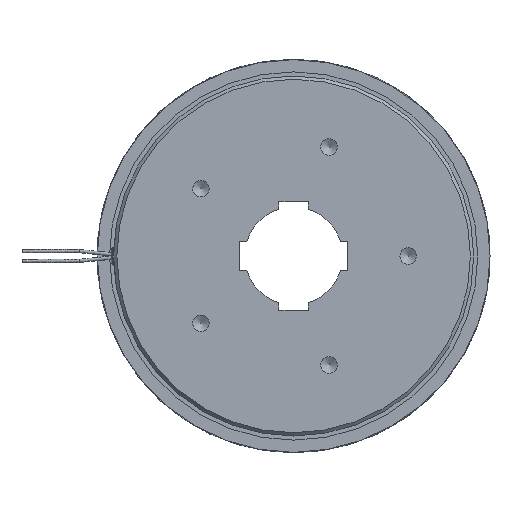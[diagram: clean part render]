
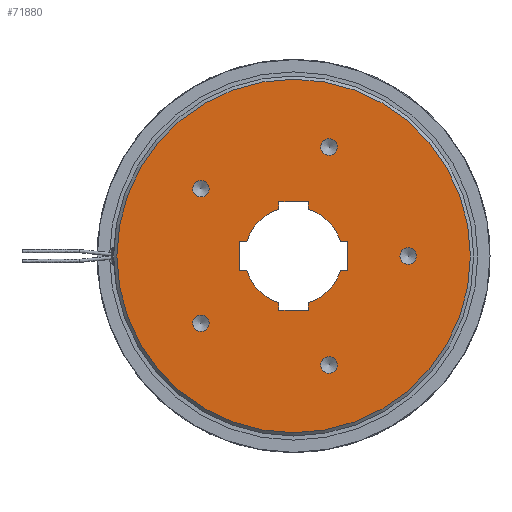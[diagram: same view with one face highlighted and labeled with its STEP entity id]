
A CAD part, left-side view. The second image highlights one B-rep face of the part: STEP entity #71880.
In plain terms, the highlighted planar face has unit normal (-1, 0, 0).
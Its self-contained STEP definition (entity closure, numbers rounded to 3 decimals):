
#196=FACE_BOUND('',#7760,.T.);
#197=FACE_BOUND('',#7761,.T.);
#198=FACE_BOUND('',#7762,.T.);
#199=FACE_BOUND('',#7763,.T.);
#200=FACE_BOUND('',#7764,.T.);
#201=FACE_BOUND('',#7765,.T.);
#737=PLANE('',#81061);
#4030=FACE_OUTER_BOUND('',#7759,.T.);
#7759=EDGE_LOOP('',(#59207));
#7760=EDGE_LOOP('',(#59208,#59209,#59210,#59211,#59212,#59213,#59214,#59215,
#59216,#59217,#59218,#59219,#59220,#59221,#59222,#59223));
#7761=EDGE_LOOP('',(#59224));
#7762=EDGE_LOOP('',(#59225));
#7763=EDGE_LOOP('',(#59226));
#7764=EDGE_LOOP('',(#59227));
#7765=EDGE_LOOP('',(#59228));
#11861=LINE('',#125065,#16191);
#11865=LINE('',#125073,#16195);
#11869=LINE('',#125080,#16199);
#11871=LINE('',#125086,#16201);
#11875=LINE('',#125094,#16205);
#11879=LINE('',#125101,#16209);
#11881=LINE('',#125107,#16211);
#11885=LINE('',#125115,#16215);
#11889=LINE('',#125122,#16219);
#11896=LINE('',#125150,#16226);
#11897=LINE('',#125153,#16227);
#11899=LINE('',#125156,#16229);
#16191=VECTOR('',#102916,10.);
#16195=VECTOR('',#102922,10.);
#16199=VECTOR('',#102928,10.);
#16201=VECTOR('',#102932,10.);
#16205=VECTOR('',#102938,10.);
#16209=VECTOR('',#102944,10.);
#16211=VECTOR('',#102948,10.);
#16215=VECTOR('',#102954,10.);
#16219=VECTOR('',#102960,10.);
#16226=VECTOR('',#102993,10.);
#16227=VECTOR('',#102996,10.);
#16229=VECTOR('',#103000,10.);
#22552=CIRCLE('',#81051,30.);
#22553=CIRCLE('',#81053,30.);
#22554=CIRCLE('',#81055,30.);
#22555=CIRCLE('',#81060,30.);
#22556=CIRCLE('',#81062,108.);
#22557=CIRCLE('',#81063,5.053);
#22558=CIRCLE('',#81064,5.053);
#22559=CIRCLE('',#81065,5.053);
#22560=CIRCLE('',#81066,5.053);
#22561=CIRCLE('',#81067,5.053);
#29212=VERTEX_POINT('',#125061);
#29214=VERTEX_POINT('',#125064);
#29217=VERTEX_POINT('',#125072);
#29219=VERTEX_POINT('',#125077);
#29220=VERTEX_POINT('',#125082);
#29222=VERTEX_POINT('',#125085);
#29225=VERTEX_POINT('',#125093);
#29227=VERTEX_POINT('',#125098);
#29228=VERTEX_POINT('',#125103);
#29230=VERTEX_POINT('',#125106);
#29233=VERTEX_POINT('',#125114);
#29235=VERTEX_POINT('',#125119);
#29241=VERTEX_POINT('',#125138);
#29242=VERTEX_POINT('',#125144);
#29243=VERTEX_POINT('',#125148);
#29244=VERTEX_POINT('',#125152);
#29245=VERTEX_POINT('',#125160);
#29246=VERTEX_POINT('',#125162);
#29247=VERTEX_POINT('',#125164);
#29248=VERTEX_POINT('',#125166);
#29249=VERTEX_POINT('',#125168);
#29250=VERTEX_POINT('',#125170);
#39379=EDGE_CURVE('',#29214,#29212,#11861,.T.);
#39383=EDGE_CURVE('',#29217,#29214,#11865,.T.);
#39387=EDGE_CURVE('',#29219,#29217,#11869,.T.);
#39389=EDGE_CURVE('',#29222,#29220,#11871,.T.);
#39393=EDGE_CURVE('',#29225,#29222,#11875,.T.);
#39397=EDGE_CURVE('',#29227,#29225,#11879,.T.);
#39399=EDGE_CURVE('',#29230,#29228,#11881,.T.);
#39403=EDGE_CURVE('',#29233,#29230,#11885,.T.);
#39407=EDGE_CURVE('',#29235,#29233,#11889,.T.);
#39417=EDGE_CURVE('',#29241,#29228,#22552,.T.);
#39418=EDGE_CURVE('',#29235,#29220,#22553,.T.);
#39419=EDGE_CURVE('',#29219,#29242,#22554,.T.);
#39422=EDGE_CURVE('',#29241,#29243,#11896,.T.);
#39423=EDGE_CURVE('',#29244,#29242,#11897,.T.);
#39425=EDGE_CURVE('',#29243,#29244,#11899,.T.);
#39426=EDGE_CURVE('',#29227,#29212,#22555,.T.);
#39427=EDGE_CURVE('',#29245,#29245,#22556,.T.);
#39428=EDGE_CURVE('',#29246,#29246,#22557,.T.);
#39429=EDGE_CURVE('',#29247,#29247,#22558,.T.);
#39430=EDGE_CURVE('',#29248,#29248,#22559,.T.);
#39431=EDGE_CURVE('',#29249,#29249,#22560,.T.);
#39432=EDGE_CURVE('',#29250,#29250,#22561,.T.);
#59207=ORIENTED_EDGE('',*,*,#39427,.T.);
#59208=ORIENTED_EDGE('',*,*,#39379,.T.);
#59209=ORIENTED_EDGE('',*,*,#39426,.F.);
#59210=ORIENTED_EDGE('',*,*,#39397,.T.);
#59211=ORIENTED_EDGE('',*,*,#39393,.T.);
#59212=ORIENTED_EDGE('',*,*,#39389,.T.);
#59213=ORIENTED_EDGE('',*,*,#39418,.F.);
#59214=ORIENTED_EDGE('',*,*,#39407,.T.);
#59215=ORIENTED_EDGE('',*,*,#39403,.T.);
#59216=ORIENTED_EDGE('',*,*,#39399,.T.);
#59217=ORIENTED_EDGE('',*,*,#39417,.F.);
#59218=ORIENTED_EDGE('',*,*,#39422,.T.);
#59219=ORIENTED_EDGE('',*,*,#39425,.T.);
#59220=ORIENTED_EDGE('',*,*,#39423,.T.);
#59221=ORIENTED_EDGE('',*,*,#39419,.F.);
#59222=ORIENTED_EDGE('',*,*,#39387,.T.);
#59223=ORIENTED_EDGE('',*,*,#39383,.T.);
#59224=ORIENTED_EDGE('',*,*,#39428,.T.);
#59225=ORIENTED_EDGE('',*,*,#39429,.T.);
#59226=ORIENTED_EDGE('',*,*,#39430,.T.);
#59227=ORIENTED_EDGE('',*,*,#39431,.T.);
#59228=ORIENTED_EDGE('',*,*,#39432,.T.);
#71880=ADVANCED_FACE('',(#4030,#196,#197,#198,#199,#200,#201),#737,.T.);
#81051=AXIS2_PLACEMENT_3D('',#125140,#102979,#102980);
#81053=AXIS2_PLACEMENT_3D('',#125142,#102983,#102984);
#81055=AXIS2_PLACEMENT_3D('',#125145,#102987,#102988);
#81060=AXIS2_PLACEMENT_3D('',#125158,#103003,#103004);
#81061=AXIS2_PLACEMENT_3D('',#125159,#103005,#103006);
#81062=AXIS2_PLACEMENT_3D('',#125161,#103007,#103008);
#81063=AXIS2_PLACEMENT_3D('',#125163,#103009,#103010);
#81064=AXIS2_PLACEMENT_3D('',#125165,#103011,#103012);
#81065=AXIS2_PLACEMENT_3D('',#125167,#103013,#103014);
#81066=AXIS2_PLACEMENT_3D('',#125169,#103015,#103016);
#81067=AXIS2_PLACEMENT_3D('',#125171,#103017,#103018);
#102916=DIRECTION('',(0.,0.,1.));
#102922=DIRECTION('',(0.,1.,0.));
#102928=DIRECTION('',(0.,0.,-1.));
#102932=DIRECTION('',(0.,-1.,0.));
#102938=DIRECTION('',(0.,0.,1.));
#102944=DIRECTION('',(0.,1.,0.));
#102948=DIRECTION('',(0.,0.,-1.));
#102954=DIRECTION('',(0.,-1.,0.));
#102960=DIRECTION('',(0.,0.,1.));
#102979=DIRECTION('center_axis',(-1.,0.,0.));
#102980=DIRECTION('ref_axis',(0.,0.,
1.));
#102983=DIRECTION('center_axis',(-1.,0.,0.));
#102984=DIRECTION('ref_axis',(0.,0.,
1.));
#102987=DIRECTION('center_axis',(-1.,0.,0.));
#102988=DIRECTION('ref_axis',(0.,0.,
1.));
#102993=DIRECTION('',(0.,-1.,0.));
#102996=DIRECTION('',(0.,1.,0.));
#103000=DIRECTION('',(0.,0.,-1.));
#103003=DIRECTION('center_axis',(-1.,0.,0.));
#103004=DIRECTION('ref_axis',(0.,0.,
1.));
#103005=DIRECTION('center_axis',(-1.,0.,0.));
#103006=DIRECTION('ref_axis',(0.,0.,
1.));
#103007=DIRECTION('center_axis',(-1.,0.,0.));
#103008=DIRECTION('ref_axis',(0.,0.,
1.));
#103009=DIRECTION('center_axis',(1.,0.,0.));
#103010=DIRECTION('ref_axis',(0.,0.,
1.));
#103011=DIRECTION('center_axis',(1.,0.,0.));
#103012=DIRECTION('ref_axis',(0.,0.951,0.309));
#103013=DIRECTION('center_axis',(1.,0.,0.));
#103014=DIRECTION('ref_axis',(0.,0.588,-0.809));
#103015=DIRECTION('center_axis',(1.,0.,0.));
#103016=DIRECTION('ref_axis',(0.,-0.588,-0.809));
#103017=DIRECTION('center_axis',(1.,0.,0.));
#103018=DIRECTION('ref_axis',(0.,-0.951,
0.309));
#125061=CARTESIAN_POINT('',(-21.5,9.,-28.618));
#125064=CARTESIAN_POINT('',(-21.5,9.,-33.1));
#125065=CARTESIAN_POINT('',(-21.5,9.,-16.55));
#125072=CARTESIAN_POINT('',(-21.5,-9.,-33.1));
#125073=CARTESIAN_POINT('',(-21.5,10.5,-33.1));
#125077=CARTESIAN_POINT('',(-21.5,-9.,-28.618));
#125080=CARTESIAN_POINT('',(-21.5,-9.,-13.45));
#125082=CARTESIAN_POINT('',(-21.5,28.618,9.));
#125085=CARTESIAN_POINT('',(-21.5,33.1,9.));
#125086=CARTESIAN_POINT('',(-21.5,31.55,9.));
#125093=CARTESIAN_POINT('',(-21.5,33.1,-9.));
#125094=CARTESIAN_POINT('',(-21.5,33.1,-4.5));
#125098=CARTESIAN_POINT('',(-21.5,28.618,-9.));
#125101=CARTESIAN_POINT('',(-21.5,28.45,-9.));
#125103=CARTESIAN_POINT('',(-21.5,-9.,28.618));
#125106=CARTESIAN_POINT('',(-21.5,-9.,33.1));
#125107=CARTESIAN_POINT('',(-21.5,-9.,16.55));
#125114=CARTESIAN_POINT('',(-21.5,9.,33.1));
#125115=CARTESIAN_POINT('',(-21.5,19.5,33.1));
#125119=CARTESIAN_POINT('',(-21.5,9.,28.618));
#125122=CARTESIAN_POINT('',(-21.5,9.,13.45));
#125138=CARTESIAN_POINT('',(-21.5,-28.618,9.));
#125140=CARTESIAN_POINT('Origin',(-21.5,0.,
0.));
#125142=CARTESIAN_POINT('Origin',(-21.5,0.,
0.));
#125144=CARTESIAN_POINT('',(-21.5,-28.618,-9.));
#125145=CARTESIAN_POINT('Origin',(-21.5,0.,
0.));
#125148=CARTESIAN_POINT('',(-21.5,-33.1,9.));
#125150=CARTESIAN_POINT('',(-21.5,1.55,9.));
#125152=CARTESIAN_POINT('',(-21.5,-33.1,-9.));
#125153=CARTESIAN_POINT('',(-21.5,-1.55,-9.));
#125156=CARTESIAN_POINT('',(-21.5,-33.1,4.5));
#125158=CARTESIAN_POINT('Origin',(-21.5,0.,
0.));
#125159=CARTESIAN_POINT('Origin',(-21.5,30.,0.));
#125160=CARTESIAN_POINT('',(-21.5,-108.,0.));
#125161=CARTESIAN_POINT('Origin',(-21.5,0.,0.));
#125162=CARTESIAN_POINT('',(-21.5,-70.,-5.053));
#125163=CARTESIAN_POINT('Origin',(-21.5,-70.,0.));
#125164=CARTESIAN_POINT('',(-21.5,-26.437,65.012));
#125165=CARTESIAN_POINT('Origin',(-21.5,-21.631,66.574));
#125166=CARTESIAN_POINT('',(-21.5,53.661,45.233));
#125167=CARTESIAN_POINT('Origin',(-21.5,56.631,41.145));
#125168=CARTESIAN_POINT('',(-21.5,59.601,-37.057));
#125169=CARTESIAN_POINT('Origin',(-21.5,56.631,-41.145));
#125170=CARTESIAN_POINT('',(-21.5,-16.826,-68.135));
#125171=CARTESIAN_POINT('Origin',(-21.5,-21.631,-66.574));
